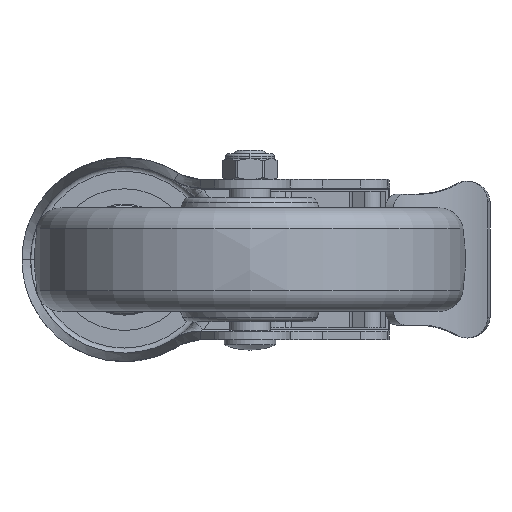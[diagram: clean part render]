
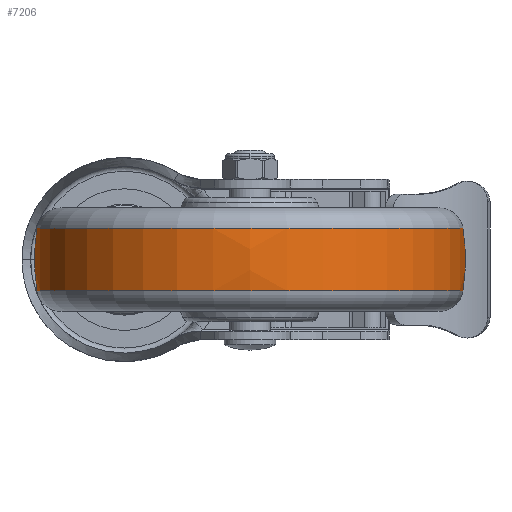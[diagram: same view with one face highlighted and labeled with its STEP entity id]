
A CAD part, front view. The second image highlights one B-rep face of the part: STEP entity #7206.
In plain terms, the highlighted free-form (B-spline) face has degree [3, 3] with [7, 4] control points.
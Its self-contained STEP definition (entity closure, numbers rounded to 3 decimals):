
#6208=CARTESIAN_POINT('',(-9.057,0.,0.));
#6209=DIRECTION('',(-1.,0.,0.));
#6210=DIRECTION('',(0.,1.,0.));
#6211=AXIS2_PLACEMENT_3D('',#6208,#6209,#6210);
#6543=CARTESIAN_POINT('',(0.,2.5,0.));
#6544=DIRECTION('',(0.,0.,1.));
#6545=DIRECTION('',(0.151,0.989,0.));
#6546=AXIS2_PLACEMENT_3D('',#6543,#6544,#6545);
#6548=CARTESIAN_POINT('',(0.,-2.5,0.));
#6549=DIRECTION('',(0.,0.,-1.));
#6550=DIRECTION('',(0.151,-0.989,0.));
#6551=AXIS2_PLACEMENT_3D('',#6548,#6549,#6550);
#6553=CARTESIAN_POINT('',(9.057,0.,0.));
#6554=DIRECTION('',(-1.,0.,0.));
#6555=DIRECTION('',(0.,1.,0.));
#6556=AXIS2_PLACEMENT_3D('',#6553,#6554,#6555);
#6563=CARTESIAN_POINT('',(-9.057,61.813,0.));
#6565=VERTEX_POINT('',#6563);
#6604=CARTESIAN_POINT('',(9.057,61.813,0.));
#6606=VERTEX_POINT('',#6604);
#6607=CARTESIAN_POINT('',(-9.057,-61.813,0.));
#6609=VERTEX_POINT('',#6607);
#6648=CARTESIAN_POINT('',(9.057,-61.813,
0.));
#6650=VERTEX_POINT('',#6648);
#7169=CARTESIAN_POINT('',(-9.416,-61.635,
3.878));
#7170=CARTESIAN_POINT('',(-3.165,-62.626,
3.94));
#7171=CARTESIAN_POINT('',(3.165,-62.626,3.94));
#7172=CARTESIAN_POINT('',(9.416,-61.635,3.878));
#7173=CARTESIAN_POINT('',(-9.416,-64.021,
-34.052));
#7174=CARTESIAN_POINT('',(-3.165,-65.051,
-34.6));
#7175=CARTESIAN_POINT('',(3.165,-65.051,
-34.6));
#7176=CARTESIAN_POINT('',(9.416,-64.021,
-34.052));
#7177=CARTESIAN_POINT('',(-9.416,-38.005,
-61.757));
#7178=CARTESIAN_POINT('',(-3.165,-38.616,
-62.75));
#7179=CARTESIAN_POINT('',(3.165,-38.616,
-62.75));
#7180=CARTESIAN_POINT('',(9.416,-38.005,
-61.757));
#7181=CARTESIAN_POINT('',(-9.416,0.,
-61.757));
#7182=CARTESIAN_POINT('',(-3.165,0.,
-62.75));
#7183=CARTESIAN_POINT('',(3.165,0.,
-62.75));
#7184=CARTESIAN_POINT('',(9.416,0.,
-61.757));
#7185=CARTESIAN_POINT('',(-9.416,38.005,
-61.757));
#7186=CARTESIAN_POINT('',(-3.165,38.616,
-62.75));
#7187=CARTESIAN_POINT('',(3.165,38.616,-62.75));
#7188=CARTESIAN_POINT('',(9.416,38.005,-61.757));
#7189=CARTESIAN_POINT('',(-9.416,64.021,
-34.052));
#7190=CARTESIAN_POINT('',(-3.165,65.051,
-34.6));
#7191=CARTESIAN_POINT('',(3.165,65.051,-34.6));
#7192=CARTESIAN_POINT('',(9.416,64.021,-34.052));
#7193=CARTESIAN_POINT('',(-9.416,61.635,3.878));
#7194=CARTESIAN_POINT('',(-3.165,62.626,3.94));
#7195=CARTESIAN_POINT('',(3.165,62.626,3.94));
#7196=CARTESIAN_POINT('',(9.416,61.635,3.878));
#7197=(BOUNDED_SURFACE()B_SPLINE_SURFACE(3,3,((#7169,#7170,#7171,#7172),(#7173,
#7174,#7175,#7176),(#7177,#7178,#7179,#7180),(#7181,#7182,#7183,#7184),(#7185,
#7186,#7187,#7188),(#7189,#7190,#7191,#7192),(#7193,#7194,#7195,#7196)),
.UNSPECIFIED.,.F.,.F.,.F.)B_SPLINE_SURFACE_WITH_KNOTS((4,3,4),(4,4),(0.,1.,
2.),(0.,1.),.UNSPECIFIED.)GEOMETRIC_REPRESENTATION_ITEM()RATIONAL_B_SPLINE_SURFACE(((1.195,1.185,1.185,1.195),(
0.943,0.936,0.936,0.943),(
0.943,0.936,0.936,0.943),(
1.195,1.185,1.185,1.195),(
0.943,0.936,0.936,0.943),(
0.943,0.936,0.936,0.943),(
1.195,1.185,1.185,1.195)))REPRESENTATION_ITEM('')SURFACE());
#7199=ORIENTED_EDGE('',*,*,#7198,.T.);
#7200=ORIENTED_EDGE('',*,*,#6676,.T.);
#7202=ORIENTED_EDGE('',*,*,#7201,.F.);
#7203=ORIENTED_EDGE('',*,*,#7162,.F.);
#7204=EDGE_LOOP('',(#7199,#7200,#7202,#7203));
#7205=FACE_OUTER_BOUND('',#7204,.F.);
#6212=CIRCLE('',#6211,61.813);
#6547=CIRCLE('',#6546,60.);
#6552=CIRCLE('',#6551,60.);
#6557=CIRCLE('',#6556,61.813);
#6676=EDGE_CURVE('',#6565,#6609,#6212,.T.);
#7162=EDGE_CURVE('',#6606,#6650,#6557,.T.);
#7198=EDGE_CURVE('',#6606,#6565,#6547,.T.);
#7201=EDGE_CURVE('',#6650,#6609,#6552,.T.);
#7206=ADVANCED_FACE('',(#7205),#7197,.T.);
